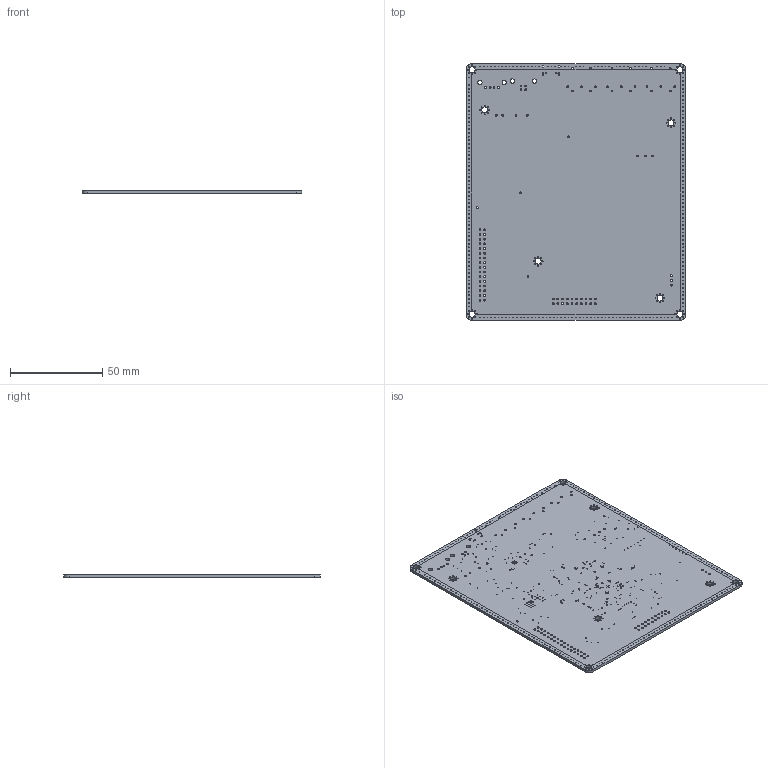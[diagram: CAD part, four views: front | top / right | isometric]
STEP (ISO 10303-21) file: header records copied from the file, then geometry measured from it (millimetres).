
FILE_DESCRIPTION(('KiCad electronic assembly'),'2;1');
FILE_NAME('Magna.step','2025-04-13T20:30:56',('Pcbnew'),('Kicad'), 'Open CASCADE STEP processor 7.6','KiCad to STEP converter','Unknown' );
FILE_SCHEMA(('AUTOMOTIVE_DESIGN { 1 0 10303 214 1 1 1 1 }'));
Length unit declared in the file: millimetre
Products named in the file (3): Magna 1; Magna_soldermask; Magna_PCB
Assembly tree (2 placements, depth 2):
  Magna 1
    Magna_soldermask
    Magna_PCB
Bounding box: 119 x 139 x 1.62 mm (x, y, z)
Volume: 24700 mm3; surface area: 64909.7 mm2
Topology: 1 solids, 3 shells, 765 faces, 2665 edges, 1904 vertices
Faces by surface type: cylinder 749, plane 16
Full cylindrical faces by diameter (mm): 0.4 x564, 0.5 x64, 0.65 x2, 0.92 x4, 0.95 x4, 1 x87, 2.3 x2, 2.33 x2, 3.2 x8
Entity records: 33600 total; most frequent: DIRECTION 6001, CARTESIAN_POINT 5337, ORIENTED_EDGE 4948, EDGE_CURVE 2665, AXIS2_PLACEMENT_3D 2568, FACE_BOUND 2521, EDGE_LOOP 2521, VERTEX_POINT 1904
